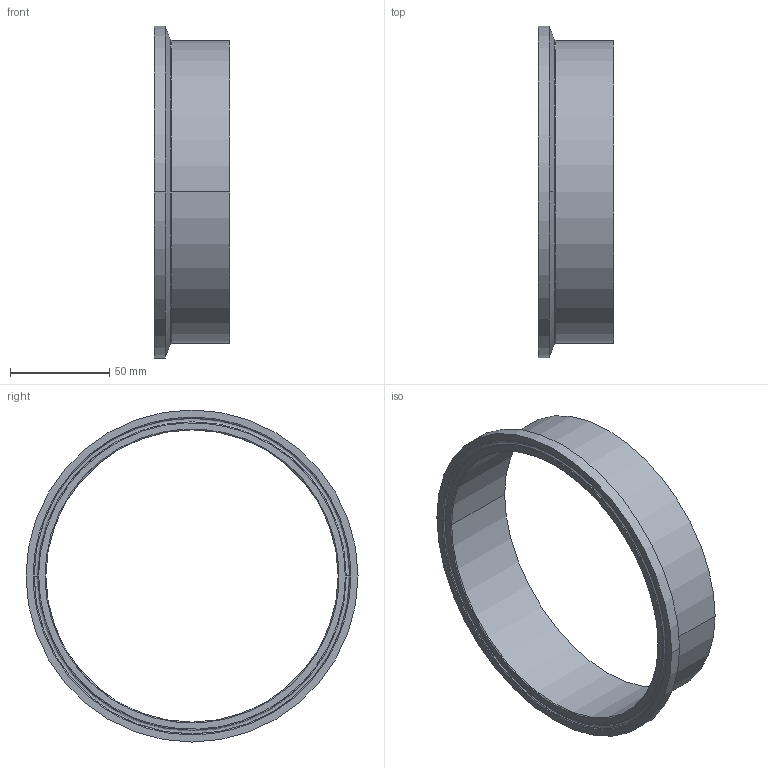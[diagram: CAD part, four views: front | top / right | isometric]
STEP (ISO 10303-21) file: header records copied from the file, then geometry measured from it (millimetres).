
FILE_DESCRIPTION (( 'STEP AP214' ), '1' );
FILE_NAME ('TEG14BM76L6.0.STEP', '2016-05-23T04:09:50', ( 'eran' ), ( '' ), 'SwSTEP 2.0', 'SolidWorks 2016', '' );
FILE_SCHEMA (( 'AUTOMOTIVE_DESIGN' ));
Length unit declared in the file: millimetre
Products named in the file (1): TEG14BM76L6.0
Bounding box: 38.1 x 166.88 x 166.88 mm (x, y, z)
Volume: 73975.2 mm3; surface area: 45033.2 mm2
Topology: 1 solids, 1 shells, 25 faces, 62 edges, 40 vertices
Faces by surface type: bspline 10, cylinder 6, cone 6, plane 3
Entity records: 1881 total; most frequent: CARTESIAN_POINT 1256, DIRECTION 132, ORIENTED_EDGE 124, EDGE_CURVE 62, AXIS2_PLACEMENT_3D 60, CIRCLE 44, VERTEX_POINT 40, EDGE_LOOP 28
